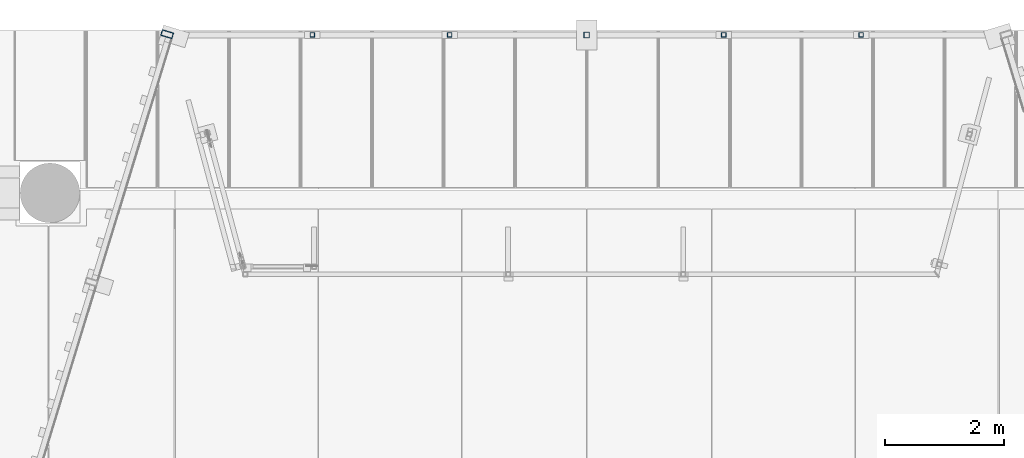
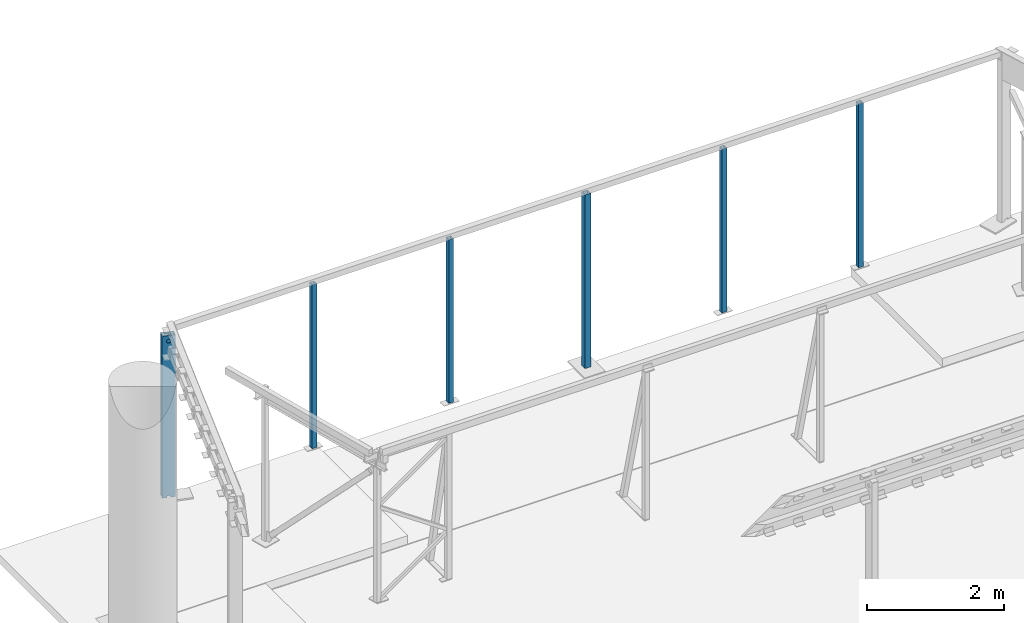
# One storey, part 3 of 19: 6 columns.
"""IFC2X3 building model written with IfcOpenShell, lengths in millimetres."""

from ifc_helpers import new_model, entity, si_unit, converted_unit, derived_unit, direction, frame, origin_with_axes, place, context, subcontext, project, spatial, faceted_brep, material, type_object, element, save


model = new_model("IFC2X3")

# Units and contexts
model_context = context("Model", 3, precision=0.01, world=frame((0.0, 4.29681676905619e-09, 0.0)), true_north=direction((4.01073788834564e-13, 1.0)))
plan_context = context("Plan", 3, precision=0.01, world=frame((0.0, 4.29681676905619e-09, 0.0)), true_north=direction((4.01073788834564e-13, 1.0)))
body_context = subcontext(model_context, "Body", "Model", "MODEL_VIEW")
ifc_project = project(units=[converted_unit("PLANEANGLEUNIT", "DEGREE", entity("IfcPositiveLengthMeasure", 0.0174532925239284), si_unit("PLANEANGLEUNIT", "RADIAN"), dimensions=[0, 0, 0, 0, 0, 0, 0]), si_unit("AREAUNIT", "SQUARE_METRE"), si_unit("LENGTHUNIT", "METRE", prefix="MILLI"), si_unit("MASSUNIT", "GRAM", prefix="KILO"), si_unit("POWERUNIT", "WATT"), si_unit("PRESSUREUNIT", "PASCAL", prefix="KILO"), si_unit("FORCEUNIT", "NEWTON", prefix="KILO"), si_unit("ELECTRICVOLTAGEUNIT", "VOLT"), si_unit("ELECTRICCURRENTUNIT", "AMPERE"), si_unit("THERMODYNAMICTEMPERATUREUNIT", "DEGREE_CELSIUS"), si_unit("TIMEUNIT", "SECOND"), si_unit("VOLUMEUNIT", "CUBIC_METRE"), derived_unit("LINEARVELOCITYUNIT", [(si_unit("LENGTHUNIT", "METRE"), 1), (si_unit("TIMEUNIT", "SECOND"), -1)]), derived_unit("VOLUMETRICFLOWRATEUNIT", [(si_unit("VOLUMEUNIT", "CUBIC_METRE"), 1), (si_unit("TIMEUNIT", "SECOND"), -1)]), derived_unit("THERMALTRANSMITTANCEUNIT", [(si_unit("POWERUNIT", "WATT"), 1), (si_unit("THERMODYNAMICTEMPERATUREUNIT", "KELVIN"), -1), (si_unit("AREAUNIT", "SQUARE_METRE"), -1)]), derived_unit("SOUNDPRESSUREUNIT", [(si_unit("PRESSUREUNIT", "PASCAL"), 1)])], contexts=[model_context, plan_context])

# Site, building, storey
site_placement = place(None, frame((0.0, -4.29681676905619e-09, 0.0), z_axis=(0.0, 0.0, 1.0), x_axis=(1.0, 0.0, 0.0)))
site = spatial("IfcSite", under=ifc_project, at=site_placement, Name="Gardermoen", CompositionType="ELEMENT")
building_placement = place(site_placement, frame((0.0, 4.29681676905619e-09, 0.0), z_axis=(0.0, 0.0, 1.0), x_axis=(1.0, 0.0, 0.0)))
building = spatial("IfcBuilding", under=site, at=building_placement, Name="TI", CompositionType="ELEMENT")
storey_placement = place(building_placement, origin_with_axes())
storey = spatial("IfcBuildingStorey", under=building, at=storey_placement, Name="F", CompositionType="ELEMENT", Elevation=0.0)

# Columns
ifc_material = material(Name="STEEL/S355")
column_type_1 = type_object("IfcColumnType", Name="RHS200*100*8", PredefinedType="NOTDEFINED")
column_1_placement = place(storey_placement, frame((584964.19098005, 578161.835119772, 210855.0), z_axis=(0.956304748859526, -0.292371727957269, 0.0), x_axis=(0.0, 0.0, 1.0)))
element("IfcColumn", 1, at=column_1_placement, inside=storey, type_object=column_type_1, material=ifc_material, Name="STÅLSØYLE", ObjectType="RHS200*100*8", context=body_context, shape_type="Brep", body=[
    faceted_brep([(30.0000000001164, -50.0, -27.5), (30.0000000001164, -42.0, -27.5), (0.0, -42.0, -27.5), (0.0, -50.0, -27.5), (30.0000000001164, -50.0, 27.5), (30.0000000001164, -42.0, 27.5), (0.0, -50.0, 27.5), (0.0, -42.0, 27.5), (30.0000000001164, 42.0, -27.5), (30.0000000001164, 50.0, -27.5), (0.0, 50.0, -27.5), (0.0, 42.0, -27.5), (30.0000000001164, 42.0, 27.5), (30.0000000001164, 50.0, 27.5), (0.0, 42.0, 27.5), (0.0, 50.0, 27.5), (0.0, -50.0, -100.0), (0.0, 50.0, -100.0), (2882.0006866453, 50.0, -100.0), (2882.0006866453, -50.0, -100.0), (-1.39698386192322e-06, 50.0000000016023, 99.999992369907), (-1.39791518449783e-06, -49.9999999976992, 99.999992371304), (2882.0006866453, -50.0, 100.0), (2882.0006866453, 50.0, 100.0), (0.0, 42.0, 92.0), (0.0, -42.0, 92.0), (2882.0006866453, 42.0, 92.0), (2882.0006866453, -42.0, 92.0), (2882.0006866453, 42.0, -92.0), (2882.0006866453, -42.0, -92.0), (0.0, 42.0, -92.0), (0.0, -42.0, -92.0), (2806.74942397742, -41.9999999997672, 24.7487373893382), (2795.39460676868, -42.0, 32.3357836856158), (2782.0006866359, -42.0, 35.0000000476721), (2768.60676650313, -42.0, 32.3357836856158), (2757.25194929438, -41.9999999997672, 24.7487373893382), (2749.66490299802, -41.9999999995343, 13.3939201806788), (2747.0006866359, -41.9999999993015, 4.79631125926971e-08), (2749.66490299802, -41.9999999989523, -13.3939200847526), (2757.25194929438, -41.9999999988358, -24.7487372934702), (2768.60676650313, -41.9999999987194, -32.3357835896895), (2782.0006866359, -41.999999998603, -34.9999999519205), (2795.39460676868, -41.9999999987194, -32.3357835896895), (2806.74942397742, -41.9999999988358, -24.7487372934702), (2814.33647027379, -41.9999999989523, -13.3939200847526), (2817.0006866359, -41.9999999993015, 4.79631125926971e-08), (2814.33647027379, -41.9999999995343, 13.3939201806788), (2814.33647027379, -49.9999999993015, 13.3939201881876), (2817.0006866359, -49.9999999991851, 5.5413693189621e-08), (2806.74942397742, -49.9999999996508, 24.7487373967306), (2795.39460676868, -49.9999999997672, 32.3357836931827), (2782.0006866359, -49.9999999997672, 35.0000000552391), (2768.60676650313, -49.9999999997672, 32.3357836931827), (2757.25194929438, -49.9999999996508, 24.7487373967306), (2749.66490299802, -49.9999999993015, 13.3939201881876), (2747.0006866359, -49.9999999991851, 5.5413693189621e-08), (2749.66490299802, -49.9999999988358, -13.3939200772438), (2757.25194929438, -49.999999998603, -24.7487372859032), (2768.60676650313, -49.9999999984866, -32.3357835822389), (2782.0006866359, -49.9999999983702, -34.9999999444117), (2795.39460676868, -49.9999999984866, -32.3357835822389), (2806.74942397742, -49.999999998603, -24.7487372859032), (2814.33647027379, -49.9999999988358, -13.3939200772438), (2806.74942397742, 49.999999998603, 24.748737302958), (2795.39460676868, 49.9999999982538, 32.3357835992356), (2782.0006866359, 49.9999999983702, 34.9999999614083), (2768.60676650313, 49.9999999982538, 32.3357835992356), (2757.25194929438, 49.999999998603, 24.748737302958), (2749.66490299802, 49.9999999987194, 13.3939200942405), (2747.0006866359, 49.9999999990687, -3.84170562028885e-08), (2749.66490299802, 49.9999999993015, -13.393920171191), (2757.25194929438, 49.9999999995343, -24.7487373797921), (2768.60676650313, 49.9999999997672, -32.3357836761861), (2782.0006866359, 49.9999999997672, -35.0000000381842), (2795.39460676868, 49.9999999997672, -32.3357836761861), (2806.74942397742, 49.9999999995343, -24.7487373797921), (2814.33647027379, 49.9999999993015, -13.393920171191), (2817.0006866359, 49.9999999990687, -3.84170562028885e-08), (2814.33647027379, 49.9999999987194, 13.3939200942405), (2814.33647027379, 41.9999999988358, 13.3939201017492), (2817.0006866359, 41.9999999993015, -3.09664756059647e-08), (2806.74942397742, 41.999999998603, 24.7487373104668), (2795.39460676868, 41.999999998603, 32.3357836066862), (2782.0006866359, 41.9999999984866, 34.9999999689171), (2768.60676650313, 41.999999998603, 32.3357836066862), (2757.25194929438, 41.999999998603, 24.7487373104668), (2749.66490299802, 41.9999999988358, 13.3939201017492), (2747.0006866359, 41.9999999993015, -3.09664756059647e-08), (2749.66490299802, 41.9999999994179, -13.393920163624), (2757.25194929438, 41.9999999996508, -24.7487373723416), (2768.60676650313, 41.9999999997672, -32.3357836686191), (2782.0006866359, 41.9999999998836, -35.0000000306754), (2795.39460676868, 41.9999999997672, -32.3357836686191), (2806.74942397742, 41.9999999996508, -24.7487373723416), (2814.33647027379, 41.9999999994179, -13.393920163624)], [[[0, 1, 2, 3]], [[4, 5, 1, 0]], [[6, 7, 5, 4]], [[8, 9, 10, 11]], [[12, 13, 9, 8]], [[14, 15, 13, 12]], [[16, 17, 18, 19]], [[20, 21, 22, 23]], [[21, 20, 15, 14, 24, 25, 7, 6]], [[25, 24, 26, 27]], [[22, 19, 18, 23], [27, 26, 28, 29]], [[30, 31, 29, 28]], [[25, 27, 29, 31, 2, 1, 5, 7], [32, 33, 34, 35, 36, 37, 38, 39, 40, 41, 42, 43, 44, 45, 46, 47]], [[48, 47, 46, 49]], [[50, 32, 47, 48]], [[51, 33, 32, 50]], [[52, 34, 33, 51]], [[53, 35, 34, 52]], [[54, 36, 35, 53]], [[55, 37, 36, 54]], [[56, 38, 37, 55]], [[57, 39, 38, 56]], [[58, 40, 39, 57]], [[59, 41, 40, 58]], [[60, 42, 41, 59]], [[61, 43, 42, 60]], [[62, 44, 43, 61]], [[63, 45, 44, 62]], [[49, 46, 45, 63]], [[3, 16, 19, 22, 21, 6, 4, 0], [62, 61, 60, 59, 58, 57, 56, 55, 54, 53, 52, 51, 50, 48, 49, 63]], [[31, 30, 11, 10, 17, 16, 3, 2]], [[20, 23, 18, 17, 10, 9, 13, 15], [64, 65, 66, 67, 68, 69, 70, 71, 72, 73, 74, 75, 76, 77, 78, 79]], [[80, 79, 78, 81]], [[82, 64, 79, 80]], [[83, 65, 64, 82]], [[84, 66, 65, 83]], [[85, 67, 66, 84]], [[86, 68, 67, 85]], [[87, 69, 68, 86]], [[88, 70, 69, 87]], [[89, 71, 70, 88]], [[90, 72, 71, 89]], [[91, 73, 72, 90]], [[92, 74, 73, 91]], [[93, 75, 74, 92]], [[94, 76, 75, 93]], [[95, 77, 76, 94]], [[81, 78, 77, 95]], [[11, 30, 28, 26, 24, 14, 12, 8], [94, 93, 92, 91, 90, 89, 88, 87, 86, 85, 84, 83, 82, 80, 81, 95]]]),
])
column_type_2 = type_object("IfcColumnType", Name="RHS80*6.3", PredefinedType="NOTDEFINED")
for number, where, z_axis, x_axis in (
    (2, (587400.0, 578150.0, 210870.0), (1.0, 0.0, 0.0), (0.0, 0.0, 1.0)),
    (3, (589700.0, 578150.0, 210870.0), (1.0, 0.0, 0.0), (0.0, 0.0, 1.0)),
    (4, (596600.0, 578150.0, 210870.0), (1.0, 0.0, 0.0), (0.0, 0.0, 1.0)),
    (5, (594300.0, 578150.0, 210870.0), (1.0, 0.0, 0.0), (0.0, 0.0, 1.0)),
):
    element("IfcColumn", number, at=place(storey_placement, frame(where, z_axis=z_axis, x_axis=x_axis)), inside=storey, type_object=column_type_2, material=ifc_material, Name="STÅLSØYLE", ObjectType="RHS80*6.3", context=body_context, shape_type="Brep", body=[
        faceted_brep([(9.9999999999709, 33.6999998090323, -33.6999998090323), (9.9999999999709, -33.6999998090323, -33.6999998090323), (2925.00068664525, -33.6999998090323, -33.6999998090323), (2925.00068664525, 33.6999998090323, -33.6999998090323), (9.9999999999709, -33.6999998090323, 33.6999998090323), (2925.00068664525, -33.6999998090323, 33.6999998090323), (9.9999999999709, 33.6999998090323, 33.6999998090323), (2925.00068664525, 33.6999998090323, 33.6999998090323), (9.99999999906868, 39.9999999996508, -40.0000000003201), (9.99999999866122, 39.9999999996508, 40.0000000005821), (2925.00068664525, 40.0, 40.0), (2925.00068664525, 40.0, -40.0), (10.0000000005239, -40.0000000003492, 40.0000000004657), (2925.00068664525, -40.0, 40.0), (10.0000000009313, -40.0000000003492, -40.0000000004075), (2925.00068664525, -40.0, -40.0)], [[[0, 1, 2, 3]], [[1, 4, 5, 2]], [[4, 6, 7, 5]], [[6, 0, 3, 7]], [[8, 9, 10, 11]], [[9, 12, 13, 10]], [[12, 14, 15, 13]], [[14, 8, 11, 15]], [[13, 15, 11, 10], [5, 7, 3, 2]], [[14, 12, 9, 8], [6, 4, 1, 0]]]),
    ])
column_type_3 = type_object("IfcColumnType", Name="RHS100*10", PredefinedType="NOTDEFINED")
column_2_placement = place(storey_placement, frame((591999.999999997, 578150.0, 210680.0), z_axis=(1.0, 0.0, 0.0), x_axis=(0.0, 0.0, 1.0)))
element("IfcColumn", 6, at=column_2_placement, inside=storey, type_object=column_type_3, material=ifc_material, Name="STÅLSØYLE", ObjectType="RHS100*10", context=body_context, shape_type="Brep", body=[
    faceted_brep([(25.0, 40.0, -40.0), (25.0, -40.0, -40.0), (3115.00068664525, -40.0, -40.0), (3115.00068664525, 40.0, -40.0), (25.0, -40.0, 40.0), (3115.00068664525, -40.0, 40.0), (25.0, 40.0, 40.0), (3115.00068664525, 40.0, 40.0), (25.0, 50.0, -50.0), (25.0, 50.0, 50.0), (3115.00068664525, 50.0, 50.0), (3115.00068664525, 50.0, -50.0), (25.0, -50.0, 50.0), (3115.00068664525, -50.0, 50.0), (25.0, -50.0, -50.0), (3115.00068664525, -50.0, -50.0)], [[[0, 1, 2, 3]], [[1, 4, 5, 2]], [[4, 6, 7, 5]], [[6, 0, 3, 7]], [[8, 9, 10, 11]], [[9, 12, 13, 10]], [[12, 14, 15, 13]], [[14, 8, 11, 15]], [[13, 15, 11, 10], [5, 7, 3, 2]], [[14, 12, 9, 8], [6, 4, 1, 0]]]),
])

save(model, "model.ifc")
